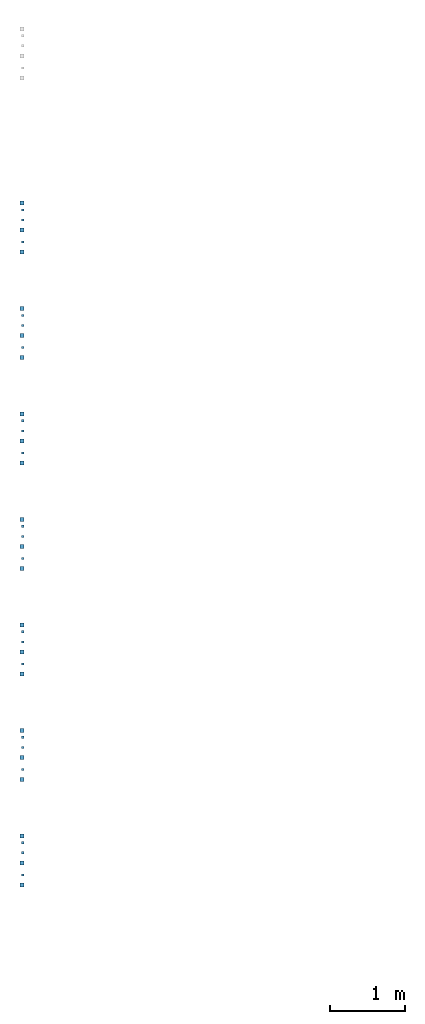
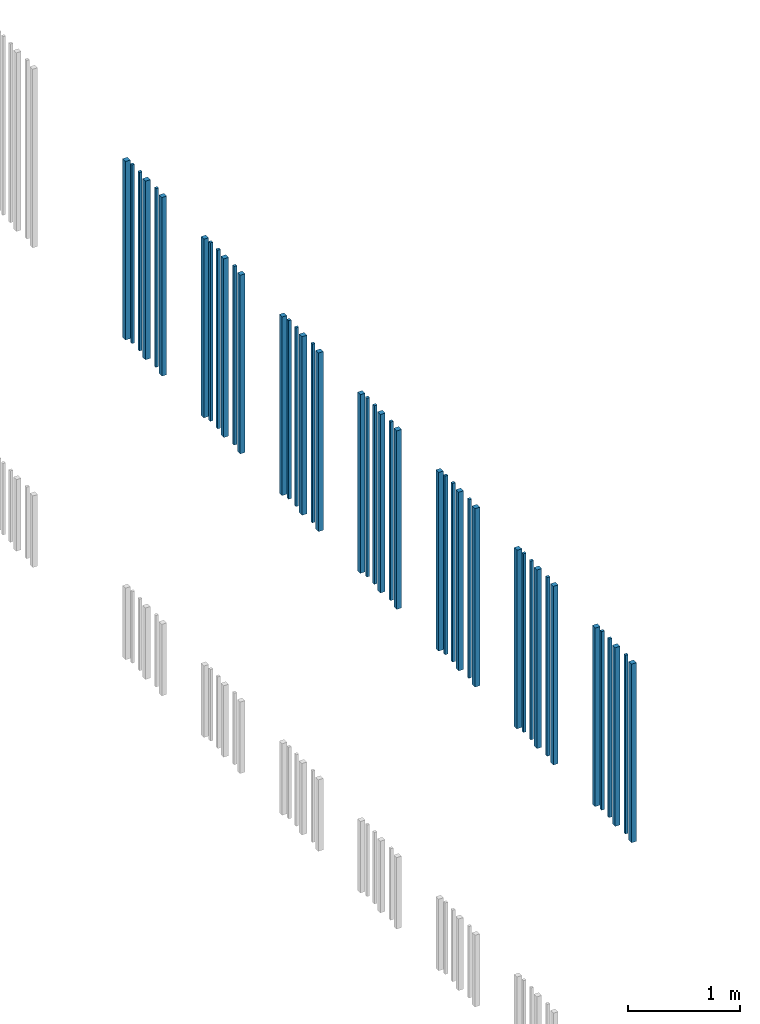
# One storey, part 19 of 124: 42 walls.
"""IFC2X3 building model written with IfcOpenShell, lengths in millimetres."""

from ifc_helpers import new_model, entity, si_unit, converted_unit, derived_unit, money_unit, direction, frame, origin_with_axes, place, context, subcontext, project, spatial, faceted_brep, material, type_object, element, save


model = new_model("IFC2X3")

# Units and contexts
model_context = context("Model", 3, precision=1e-05, world=origin_with_axes(), true_north=direction((0.0, 1.0)))
body_context = subcontext(model_context, "Body", "Model", "MODEL_VIEW")
ifc_project = project(units=[si_unit("LENGTHUNIT", "METRE", prefix="MILLI"), si_unit("AREAUNIT", "SQUARE_METRE"), si_unit("VOLUMEUNIT", "CUBIC_METRE"), converted_unit("PLANEANGLEUNIT", "DEGREE", entity("IfcPlaneAngleMeasure", 0.0174532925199), si_unit("PLANEANGLEUNIT", "RADIAN"), dimensions=[0, 0, 0, 0, 0, 0, 0]), si_unit("SOLIDANGLEUNIT", "STERADIAN"), money_unit("EUR"), converted_unit("TIMEUNIT", "Year", entity("IfcTimeMeasure", 31556926.0), si_unit("TIMEUNIT", "SECOND"), dimensions=[0, 0, 1, 0, 0, 0, 0]), si_unit("MASSUNIT", "GRAM", prefix="KILO"), si_unit("THERMODYNAMICTEMPERATUREUNIT", "DEGREE_CELSIUS"), si_unit("LUMINOUSINTENSITYUNIT", "LUMEN"), si_unit("ENERGYUNIT", "JOULE", prefix="MEGA"), derived_unit("THERMALCONDUCTANCEUNIT", [(si_unit("POWERUNIT", "WATT"), 1), (si_unit("LENGTHUNIT", "METRE"), -1), (si_unit("THERMODYNAMICTEMPERATUREUNIT", "KELVIN"), -1)]), derived_unit("SPECIFICHEATCAPACITYUNIT", [(si_unit("ENERGYUNIT", "JOULE"), 1), (si_unit("MASSUNIT", "GRAM", prefix="KILO"), -1), (si_unit("THERMODYNAMICTEMPERATUREUNIT", "KELVIN"), -1)]), derived_unit("MASSDENSITYUNIT", [(si_unit("MASSUNIT", "GRAM", prefix="KILO"), 1), (si_unit("VOLUMEUNIT", "CUBIC_METRE"), -1)])], contexts=[model_context])

# Site, building, storey
site_placement = place(None, origin_with_axes())
site = spatial("IfcSite", under=ifc_project, at=site_placement, Name="Site", CompositionType="ELEMENT")
building_placement = place(site_placement, origin_with_axes())
building = spatial("IfcBuilding", under=site, at=building_placement, Name="Building", CompositionType="ELEMENT")
storey_placement = place(building_placement, frame((0.0, 0.0, -1615.0), z_axis=(0.0, 0.0, 1.0), x_axis=(1.0, 0.0, 0.0)))
storey = spatial("IfcBuildingStorey", under=building, at=storey_placement, Name="0  korrus", CompositionType="ELEMENT", Elevation=-1615.0)

# Walls
ifc_material = material(Name="Site specified")
wall_type = type_object("IfcWallType", Name="Puitfassaadi ribistik", PredefinedType="NOTDEFINED")
wall_1_placement = place(storey_placement, frame((122398.999992, 55140.0207055, 9530.0), z_axis=(0.0, 0.0, 1.0), x_axis=(-5.16795809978e-08, 1.0, 0.0)))
element("IfcWall", 1, at=wall_1_placement, inside=storey, type_object=wall_type, material=ifc_material, Name="Site specified", context=body_context, shape_type="Brep", body=[
    faceted_brep([(14.0, 14.0, 1950.0), (14.0, 14.0, 0.0), (-14.0, 14.0, 0.0), (-14.0, 14.0, 1950.0), (14.0, -14.0, 1950.0), (14.0, -14.0, 0.0), (-14.0, -14.0, 0.0), (-14.0, -14.0, 1950.0)], [[[0, 1, 2, 3]], [[4, 5, 1, 0]], [[2, 1, 5, 6]], [[3, 2, 6, 7]], [[4, 0, 3, 7]], [[7, 6, 5, 4]]]),
])
wall_2_placement = place(storey_placement, frame((122387.999999, 55005.0182144, 9530.0), z_axis=(0.0, 0.0, 1.0), x_axis=(-5.16795809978e-08, 1.0, 0.0)))
element("IfcWall", 2, at=wall_2_placement, inside=storey, type_object=wall_type, material=ifc_material, Name="Site specified", context=body_context, shape_type="Brep", body=[
    faceted_brep([(25.0, 25.0, 1950.0), (25.0, 25.0, 0.0), (-25.0, 25.0, 0.0), (-25.0, 25.0, 1950.0), (25.0, -25.0, 1950.0), (25.0, -25.0, 0.0), (-25.0, -25.0, 0.0), (-25.0, -25.0, 1950.0)], [[[0, 1, 2, 3]], [[4, 5, 1, 0]], [[2, 1, 5, 6]], [[3, 2, 6, 7]], [[4, 0, 3, 7]], [[7, 6, 5, 4]]]),
])
for number, where, z_axis, x_axis, name in (
    (3, (122398.99997, 55566.0206757, 9530.0), (0.0, 0.0, 1.0), (-5.16795809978e-08, 1.0, 0.0), "Site specified"),
    (4, (122398.999977, 55433.0206766, 9530.0), (0.0, 0.0, 1.0), (-5.16795809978e-08, 1.0, 0.0), "Site specified"),
):
    element("IfcWall", number, at=place(storey_placement, frame(where, z_axis=z_axis, x_axis=x_axis)), inside=storey, type_object=wall_type, material=ifc_material, Name=name, context=body_context, shape_type="Brep", body=[
        faceted_brep([(14.0, 14.0, 1950.0), (14.0, 14.0, 0.0), (-14.0, 14.0, 0.0), (-14.0, 14.0, 1950.0), (14.0, -14.0, 1950.0), (14.0, -14.0, 0.0), (-14.0, -14.0, 0.0), (-14.0, -14.0, 1950.0)], [[[0, 1, 2, 3]], [[4, 5, 1, 0]], [[2, 1, 5, 6]], [[3, 2, 6, 7]], [[4, 0, 3, 7]], [[7, 6, 5, 4]]]),
    ])
for number, where, z_axis, x_axis, name in (
    (5, (122387.999966, 55655.0238456, 9530.0), (0.0, 0.0, 1.0), (-5.16795809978e-08, 1.0, 0.0), "Site specified"),
    (6, (122387.999984, 55299.0182123, 9530.0), (0.0, 0.0, 1.0), (-5.16795809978e-08, 1.0, 0.0), "Site specified"),
    (7, (122388.0, 53605.0182143, 9530.0), (0.0, 0.0, 1.0), (-5.16795809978e-08, 1.0, 0.0), "Site specified"),
):
    element("IfcWall", number, at=place(storey_placement, frame(where, z_axis=z_axis, x_axis=x_axis)), inside=storey, type_object=wall_type, material=ifc_material, Name=name, context=body_context, shape_type="Brep", body=[
        faceted_brep([(25.0, 25.0, 1950.0), (25.0, 25.0, 0.0), (-25.0, 25.0, 0.0), (-25.0, 25.0, 1950.0), (25.0, -25.0, 1950.0), (25.0, -25.0, 0.0), (-25.0, -25.0, 0.0), (-25.0, -25.0, 1950.0)], [[[0, 1, 2, 3]], [[4, 5, 1, 0]], [[2, 1, 5, 6]], [[3, 2, 6, 7]], [[4, 0, 3, 7]], [[7, 6, 5, 4]]]),
    ])
wall_3_placement = place(storey_placement, frame((122398.999993, 53740.0207053, 9530.0), z_axis=(0.0, 0.0, 1.0), x_axis=(-5.16795809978e-08, 1.0, 0.0)))
element("IfcWall", 8, at=wall_3_placement, inside=storey, type_object=wall_type, material=ifc_material, Name="Site specified", context=body_context, shape_type="Brep", body=[
    faceted_brep([(14.0, 14.0, 1950.0), (14.0, 14.0, 0.0), (-14.0, 14.0, 0.0), (-14.0, 14.0, 1950.0), (14.0, -14.0, 1950.0), (14.0, -14.0, 0.0), (-14.0, -14.0, 0.0), (-14.0, -14.0, 1950.0)], [[[0, 1, 2, 3]], [[4, 5, 1, 0]], [[2, 1, 5, 6]], [[3, 2, 6, 7]], [[4, 0, 3, 7]], [[7, 6, 5, 4]]]),
])
wall_4_placement = place(storey_placement, frame((122387.999984, 53899.0182121, 9530.0), z_axis=(0.0, 0.0, 1.0), x_axis=(-5.16795809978e-08, 1.0, 0.0)))
element("IfcWall", 9, at=wall_4_placement, inside=storey, type_object=wall_type, material=ifc_material, Name="Site specified", context=body_context, shape_type="Brep", body=[
    faceted_brep([(25.0, 25.0, 1950.0), (25.0, 25.0, 0.0), (-25.0, 25.0, 0.0), (-25.0, 25.0, 1950.0), (25.0, -25.0, 1950.0), (25.0, -25.0, 0.0), (-25.0, -25.0, 0.0), (-25.0, -25.0, 1950.0)], [[[0, 1, 2, 3]], [[4, 5, 1, 0]], [[2, 1, 5, 6]], [[3, 2, 6, 7]], [[4, 0, 3, 7]], [[7, 6, 5, 4]]]),
])
for number, where, z_axis, x_axis, name in (
    (10, (122398.999971, 54166.0206755, 9530.0), (0.0, 0.0, 1.0), (-5.16795809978e-08, 1.0, 0.0), "Site specified"),
    (11, (122398.999977, 54033.0206764, 9530.0), (0.0, 0.0, 1.0), (-5.16795809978e-08, 1.0, 0.0), "Site specified"),
):
    element("IfcWall", number, at=place(storey_placement, frame(where, z_axis=z_axis, x_axis=x_axis)), inside=storey, type_object=wall_type, material=ifc_material, Name=name, context=body_context, shape_type="Brep", body=[
        faceted_brep([(14.0, 14.0, 1950.0), (14.0, 14.0, 0.0), (-14.0, 14.0, 0.0), (-14.0, 14.0, 1950.0), (14.0, -14.0, 1950.0), (14.0, -14.0, 0.0), (-14.0, -14.0, 0.0), (-14.0, -14.0, 1950.0)], [[[0, 1, 2, 3]], [[4, 5, 1, 0]], [[2, 1, 5, 6]], [[3, 2, 6, 7]], [[4, 0, 3, 7]], [[7, 6, 5, 4]]]),
    ])
for number, where, z_axis, x_axis, name in (
    (12, (122387.999966, 54255.0238454, 9530.0), (0.0, 0.0, 1.0), (-5.16795809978e-08, 1.0, 0.0), "Site specified"),
    (13, (122387.999966, 52855.0238454, 9530.0), (0.0, 0.0, 1.0), (-5.16795809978e-08, 1.0, 0.0), "Site specified"),
    (14, (122387.999985, 52499.0182121, 9530.0), (0.0, 0.0, 1.0), (-5.16795809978e-08, 1.0, 0.0), "Site specified"),
):
    element("IfcWall", number, at=place(storey_placement, frame(where, z_axis=z_axis, x_axis=x_axis)), inside=storey, type_object=wall_type, material=ifc_material, Name=name, context=body_context, shape_type="Brep", body=[
        faceted_brep([(25.0, 25.0, 1950.0), (25.0, 25.0, 0.0), (-25.0, 25.0, 0.0), (-25.0, 25.0, 1950.0), (25.0, -25.0, 1950.0), (25.0, -25.0, 0.0), (-25.0, -25.0, 0.0), (-25.0, -25.0, 1950.0)], [[[0, 1, 2, 3]], [[4, 5, 1, 0]], [[2, 1, 5, 6]], [[3, 2, 6, 7]], [[4, 0, 3, 7]], [[7, 6, 5, 4]]]),
    ])
for number, where, z_axis, x_axis, name in (
    (15, (122398.999993, 52340.0207053, 9530.0), (0.0, 0.0, 1.0), (-5.16795809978e-08, 1.0, 0.0), "Site specified"),
    (16, (122398.999978, 52633.0206764, 9530.0), (0.0, 0.0, 1.0), (-5.16795809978e-08, 1.0, 0.0), "Site specified"),
):
    element("IfcWall", number, at=place(storey_placement, frame(where, z_axis=z_axis, x_axis=x_axis)), inside=storey, type_object=wall_type, material=ifc_material, Name=name, context=body_context, shape_type="Brep", body=[
        faceted_brep([(14.0, 14.0, 1950.0), (14.0, 14.0, 0.0), (-14.0, 14.0, 0.0), (-14.0, 14.0, 1950.0), (14.0, -14.0, 1950.0), (14.0, -14.0, 0.0), (-14.0, -14.0, 0.0), (-14.0, -14.0, 1950.0)], [[[0, 1, 2, 3]], [[4, 5, 1, 0]], [[2, 1, 5, 6]], [[3, 2, 6, 7]], [[4, 0, 3, 7]], [[7, 6, 5, 4]]]),
    ])
wall_5_placement = place(storey_placement, frame((122388.0, 52205.0182143, 9530.0), z_axis=(0.0, 0.0, 1.0), x_axis=(-5.16795809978e-08, 1.0, 0.0)))
element("IfcWall", 17, at=wall_5_placement, inside=storey, type_object=wall_type, material=ifc_material, Name="Site specified", context=body_context, shape_type="Brep", body=[
    faceted_brep([(25.0, 25.0, 1950.0), (25.0, 25.0, 0.0), (-25.0, 25.0, 0.0), (-25.0, 25.0, 1950.0), (25.0, -25.0, 1950.0), (25.0, -25.0, 0.0), (-25.0, -25.0, 0.0), (-25.0, -25.0, 1950.0)], [[[0, 1, 2, 3]], [[4, 5, 1, 0]], [[2, 1, 5, 6]], [[3, 2, 6, 7]], [[4, 0, 3, 7]], [[7, 6, 5, 4]]]),
])
wall_6_placement = place(storey_placement, frame((122398.999971, 52766.0206755, 9530.0), z_axis=(0.0, 0.0, 1.0), x_axis=(-5.16795809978e-08, 1.0, 0.0)))
element("IfcWall", 18, at=wall_6_placement, inside=storey, type_object=wall_type, material=ifc_material, Name="Site specified", context=body_context, shape_type="Brep", body=[
    faceted_brep([(14.0, 14.0, 1950.0), (14.0, 14.0, 0.0), (-14.0, 14.0, 0.0), (-14.0, 14.0, 1950.0), (14.0, -14.0, 1950.0), (14.0, -14.0, 0.0), (-14.0, -14.0, 0.0), (-14.0, -14.0, 1950.0)], [[[0, 1, 2, 3]], [[4, 5, 1, 0]], [[2, 1, 5, 6]], [[3, 2, 6, 7]], [[4, 0, 3, 7]], [[7, 6, 5, 4]]]),
])
wall_7_placement = place(storey_placement, frame((122388.0, 46605.0182143, 9530.0), z_axis=(0.0, 0.0, 1.0), x_axis=(-5.16795809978e-08, 1.0, 0.0)))
element("IfcWall", 19, at=wall_7_placement, inside=storey, type_object=wall_type, material=ifc_material, Name="Site specified", context=body_context, shape_type="Brep", body=[
    faceted_brep([(25.0, 25.0, 1950.0), (25.0, 25.0, 0.0), (-25.0, 25.0, 0.0), (-25.0, 25.0, 1950.0), (25.0, -25.0, 1950.0), (25.0, -25.0, 0.0), (-25.0, -25.0, 0.0), (-25.0, -25.0, 1950.0)], [[[0, 1, 2, 3]], [[4, 5, 1, 0]], [[2, 1, 5, 6]], [[3, 2, 6, 7]], [[4, 0, 3, 7]], [[7, 6, 5, 4]]]),
])
wall_8_placement = place(storey_placement, frame((122398.999971, 48566.0206755, 9530.0), z_axis=(0.0, 0.0, 1.0), x_axis=(-5.16795809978e-08, 1.0, 0.0)))
element("IfcWall", 20, at=wall_8_placement, inside=storey, type_object=wall_type, material=ifc_material, Name="Site specified", context=body_context, shape_type="Brep", body=[
    faceted_brep([(14.0, 14.0, 1950.0), (14.0, 14.0, 0.0), (-14.0, 14.0, 0.0), (-14.0, 14.0, 1950.0), (14.0, -14.0, 1950.0), (14.0, -14.0, 0.0), (-14.0, -14.0, 0.0), (-14.0, -14.0, 1950.0)], [[[0, 1, 2, 3]], [[4, 5, 1, 0]], [[2, 1, 5, 6]], [[3, 2, 6, 7]], [[4, 0, 3, 7]], [[7, 6, 5, 4]]]),
])
wall_9_placement = place(storey_placement, frame((122388.0, 48005.0182143, 9530.0), z_axis=(0.0, 0.0, 1.0), x_axis=(-5.16795809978e-08, 1.0, 0.0)))
element("IfcWall", 21, at=wall_9_placement, inside=storey, type_object=wall_type, material=ifc_material, Name="Site specified", context=body_context, shape_type="Brep", body=[
    faceted_brep([(25.0, 25.0, 1950.0), (25.0, 25.0, 0.0), (-25.0, 25.0, 0.0), (-25.0, 25.0, 1950.0), (25.0, -25.0, 1950.0), (25.0, -25.0, 0.0), (-25.0, -25.0, 0.0), (-25.0, -25.0, 1950.0)], [[[0, 1, 2, 3]], [[4, 5, 1, 0]], [[2, 1, 5, 6]], [[3, 2, 6, 7]], [[4, 0, 3, 7]], [[7, 6, 5, 4]]]),
])
for number, where, z_axis, x_axis, name in (
    (22, (122398.999993, 48140.0207053, 9530.0), (0.0, 0.0, 1.0), (-5.16795809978e-08, 1.0, 0.0), "Site specified"),
    (23, (122398.999993, 46740.0207053, 9530.0), (0.0, 0.0, 1.0), (-5.16795809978e-08, 1.0, 0.0), "Site specified"),
    (24, (122398.999971, 47166.0206755, 9530.0), (0.0, 0.0, 1.0), (-5.16795809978e-08, 1.0, 0.0), "Site specified"),
    (25, (122398.999978, 47033.0206764, 9530.0), (0.0, 0.0, 1.0), (-5.16795809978e-08, 1.0, 0.0), "Site specified"),
):
    element("IfcWall", number, at=place(storey_placement, frame(where, z_axis=z_axis, x_axis=x_axis)), inside=storey, type_object=wall_type, material=ifc_material, Name=name, context=body_context, shape_type="Brep", body=[
        faceted_brep([(14.0, 14.0, 1950.0), (14.0, 14.0, 0.0), (-14.0, 14.0, 0.0), (-14.0, 14.0, 1950.0), (14.0, -14.0, 1950.0), (14.0, -14.0, 0.0), (-14.0, -14.0, 0.0), (-14.0, -14.0, 1950.0)], [[[0, 1, 2, 3]], [[4, 5, 1, 0]], [[2, 1, 5, 6]], [[3, 2, 6, 7]], [[4, 0, 3, 7]], [[7, 6, 5, 4]]]),
    ])
for number, where, z_axis, x_axis, name in (
    (26, (122387.999967, 47255.0238454, 9530.0), (0.0, 0.0, 1.0), (-5.16795809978e-08, 1.0, 0.0), "Site specified"),
    (27, (122387.999985, 46899.0182121, 9530.0), (0.0, 0.0, 1.0), (-5.16795809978e-08, 1.0, 0.0), "Site specified"),
    (28, (122387.999966, 50055.0238454, 9530.0), (0.0, 0.0, 1.0), (-5.16795809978e-08, 1.0, 0.0), "Site specified"),
    (29, (122388.0, 49405.0182143, 9530.0), (0.0, 0.0, 1.0), (-5.16795809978e-08, 1.0, 0.0), "Site specified"),
):
    element("IfcWall", number, at=place(storey_placement, frame(where, z_axis=z_axis, x_axis=x_axis)), inside=storey, type_object=wall_type, material=ifc_material, Name=name, context=body_context, shape_type="Brep", body=[
        faceted_brep([(25.0, 25.0, 1950.0), (25.0, 25.0, 0.0), (-25.0, 25.0, 0.0), (-25.0, 25.0, 1950.0), (25.0, -25.0, 1950.0), (25.0, -25.0, 0.0), (-25.0, -25.0, 0.0), (-25.0, -25.0, 1950.0)], [[[0, 1, 2, 3]], [[4, 5, 1, 0]], [[2, 1, 5, 6]], [[3, 2, 6, 7]], [[4, 0, 3, 7]], [[7, 6, 5, 4]]]),
    ])
for number, where, z_axis, x_axis, name in (
    (30, (122398.999993, 49540.0207053, 9530.0), (0.0, 0.0, 1.0), (-5.16795809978e-08, 1.0, 0.0), "Site specified"),
    (31, (122398.999971, 49966.0206755, 9530.0), (0.0, 0.0, 1.0), (-5.16795809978e-08, 1.0, 0.0), "Site specified"),
    (32, (122398.999978, 49833.0206764, 9530.0), (0.0, 0.0, 1.0), (-5.16795809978e-08, 1.0, 0.0), "Site specified"),
):
    element("IfcWall", number, at=place(storey_placement, frame(where, z_axis=z_axis, x_axis=x_axis)), inside=storey, type_object=wall_type, material=ifc_material, Name=name, context=body_context, shape_type="Brep", body=[
        faceted_brep([(14.0, 14.0, 1950.0), (14.0, 14.0, 0.0), (-14.0, 14.0, 0.0), (-14.0, 14.0, 1950.0), (14.0, -14.0, 1950.0), (14.0, -14.0, 0.0), (-14.0, -14.0, 0.0), (-14.0, -14.0, 1950.0)], [[[0, 1, 2, 3]], [[4, 5, 1, 0]], [[2, 1, 5, 6]], [[3, 2, 6, 7]], [[4, 0, 3, 7]], [[7, 6, 5, 4]]]),
    ])
wall_10_placement = place(storey_placement, frame((122387.999985, 49699.0182121, 9530.0), z_axis=(0.0, 0.0, 1.0), x_axis=(-5.16795809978e-08, 1.0, 0.0)))
element("IfcWall", 33, at=wall_10_placement, inside=storey, type_object=wall_type, material=ifc_material, Name="Site specified", context=body_context, shape_type="Brep", body=[
    faceted_brep([(25.0, 25.0, 1950.0), (25.0, 25.0, 0.0), (-25.0, 25.0, 0.0), (-25.0, 25.0, 1950.0), (25.0, -25.0, 1950.0), (25.0, -25.0, 0.0), (-25.0, -25.0, 0.0), (-25.0, -25.0, 1950.0)], [[[0, 1, 2, 3]], [[4, 5, 1, 0]], [[2, 1, 5, 6]], [[3, 2, 6, 7]], [[4, 0, 3, 7]], [[7, 6, 5, 4]]]),
])
wall_11_placement = place(storey_placement, frame((122398.999978, 48433.0206764, 9530.0), z_axis=(0.0, 0.0, 1.0), x_axis=(-5.16795809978e-08, 1.0, 0.0)))
element("IfcWall", 34, at=wall_11_placement, inside=storey, type_object=wall_type, material=ifc_material, Name="Site specified", context=body_context, shape_type="Brep", body=[
    faceted_brep([(14.0, 14.0, 1950.0), (14.0, 14.0, 0.0), (-14.0, 14.0, 0.0), (-14.0, 14.0, 1950.0), (14.0, -14.0, 1950.0), (14.0, -14.0, 0.0), (-14.0, -14.0, 0.0), (-14.0, -14.0, 1950.0)], [[[0, 1, 2, 3]], [[4, 5, 1, 0]], [[2, 1, 5, 6]], [[3, 2, 6, 7]], [[4, 0, 3, 7]], [[7, 6, 5, 4]]]),
])
for number, where, z_axis, x_axis, name in (
    (35, (122387.999967, 48655.0238454, 9530.0), (0.0, 0.0, 1.0), (-5.16795809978e-08, 1.0, 0.0), "Site specified"),
    (36, (122387.999985, 48299.0182121, 9530.0), (0.0, 0.0, 1.0), (-5.16795809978e-08, 1.0, 0.0), "Site specified"),
    (37, (122388.0, 50805.0182143, 9530.0), (0.0, 0.0, 1.0), (-5.16795809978e-08, 1.0, 0.0), "Site specified"),
):
    element("IfcWall", number, at=place(storey_placement, frame(where, z_axis=z_axis, x_axis=x_axis)), inside=storey, type_object=wall_type, material=ifc_material, Name=name, context=body_context, shape_type="Brep", body=[
        faceted_brep([(25.0, 25.0, 1950.0), (25.0, 25.0, 0.0), (-25.0, 25.0, 0.0), (-25.0, 25.0, 1950.0), (25.0, -25.0, 1950.0), (25.0, -25.0, 0.0), (-25.0, -25.0, 0.0), (-25.0, -25.0, 1950.0)], [[[0, 1, 2, 3]], [[4, 5, 1, 0]], [[2, 1, 5, 6]], [[3, 2, 6, 7]], [[4, 0, 3, 7]], [[7, 6, 5, 4]]]),
    ])
for number, where, z_axis, x_axis, name in (
    (38, (122398.999993, 50940.0207053, 9530.0), (0.0, 0.0, 1.0), (-5.16795809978e-08, 1.0, 0.0), "Site specified"),
    (39, (122398.999971, 51366.0206755, 9530.0), (0.0, 0.0, 1.0), (-5.16795809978e-08, 1.0, 0.0), "Site specified"),
    (40, (122398.999978, 51233.0206764, 9530.0), (0.0, 0.0, 1.0), (-5.16795809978e-08, 1.0, 0.0), "Site specified"),
):
    element("IfcWall", number, at=place(storey_placement, frame(where, z_axis=z_axis, x_axis=x_axis)), inside=storey, type_object=wall_type, material=ifc_material, Name=name, context=body_context, shape_type="Brep", body=[
        faceted_brep([(14.0, 14.0, 1950.0), (14.0, 14.0, 0.0), (-14.0, 14.0, 0.0), (-14.0, 14.0, 1950.0), (14.0, -14.0, 1950.0), (14.0, -14.0, 0.0), (-14.0, -14.0, 0.0), (-14.0, -14.0, 1950.0)], [[[0, 1, 2, 3]], [[4, 5, 1, 0]], [[2, 1, 5, 6]], [[3, 2, 6, 7]], [[4, 0, 3, 7]], [[7, 6, 5, 4]]]),
    ])
for number, where, z_axis, x_axis, name in (
    (41, (122387.999966, 51455.0238454, 9530.0), (0.0, 0.0, 1.0), (-5.16795809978e-08, 1.0, 0.0), "Site specified"),
    (42, (122387.999985, 51099.0182121, 9530.0), (0.0, 0.0, 1.0), (-5.16795809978e-08, 1.0, 0.0), "Site specified"),
):
    element("IfcWall", number, at=place(storey_placement, frame(where, z_axis=z_axis, x_axis=x_axis)), inside=storey, type_object=wall_type, material=ifc_material, Name=name, context=body_context, shape_type="Brep", body=[
        faceted_brep([(25.0, 25.0, 1950.0), (25.0, 25.0, 0.0), (-25.0, 25.0, 0.0), (-25.0, 25.0, 1950.0), (25.0, -25.0, 1950.0), (25.0, -25.0, 0.0), (-25.0, -25.0, 0.0), (-25.0, -25.0, 1950.0)], [[[0, 1, 2, 3]], [[4, 5, 1, 0]], [[2, 1, 5, 6]], [[3, 2, 6, 7]], [[4, 0, 3, 7]], [[7, 6, 5, 4]]]),
    ])

save(model, "model.ifc")
